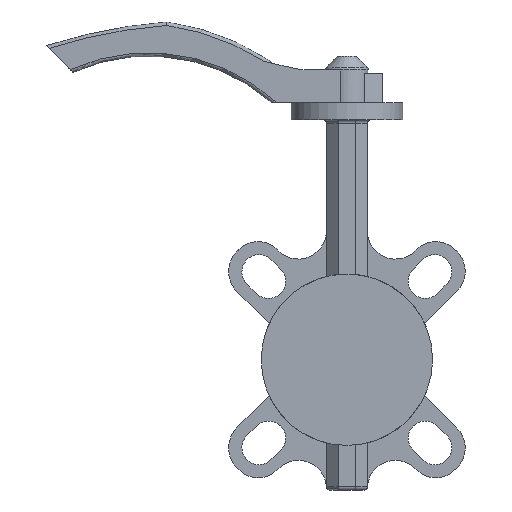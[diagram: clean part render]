
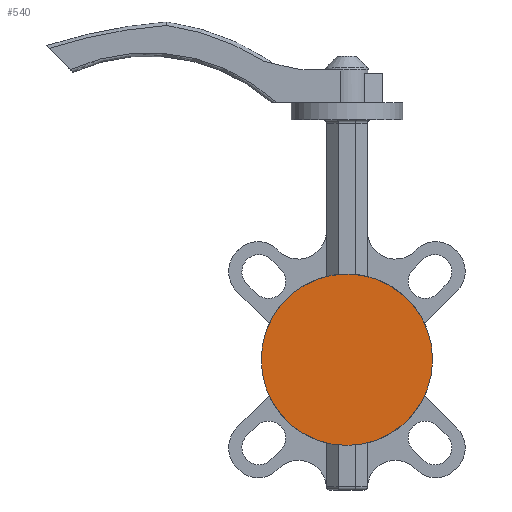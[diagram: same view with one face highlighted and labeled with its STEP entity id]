
A CAD part, left-side view. The second image highlights one B-rep face of the part: STEP entity #540.
In plain terms, the highlighted planar face has unit normal (-1, 0, 0).
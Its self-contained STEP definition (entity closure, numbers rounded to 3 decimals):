
#326=CIRCLE('',#3864,50.);
#540=ADVANCED_FACE('',(#833),#732,.F.);
#732=PLANE('',#3872);
#833=FACE_OUTER_BOUND('',#1030,.T.);
#1030=EDGE_LOOP('',(#1413));
#1413=ORIENTED_EDGE('',*,*,#2733,.F.);
#2362=VERTEX_POINT('',#5169);
#2733=EDGE_CURVE('',#2362,#2362,#326,.T.);
#3864=AXIS2_PLACEMENT_3D('',#5168,#4273,#4274);
#3872=AXIS2_PLACEMENT_3D('',#5186,#4293,#4294);
#4273=DIRECTION('',(1.,0.,0.));
#4274=DIRECTION('',(0.,1.,0.));
#4293=DIRECTION('',(1.,0.,0.));
#4294=DIRECTION('',(0.,0.,-1.));
#5168=CARTESIAN_POINT('',(-22.5,22.5,0.));
#5169=CARTESIAN_POINT('',(-22.5,72.5,0.));
#5186=CARTESIAN_POINT('',(-22.5,22.5,0.));
